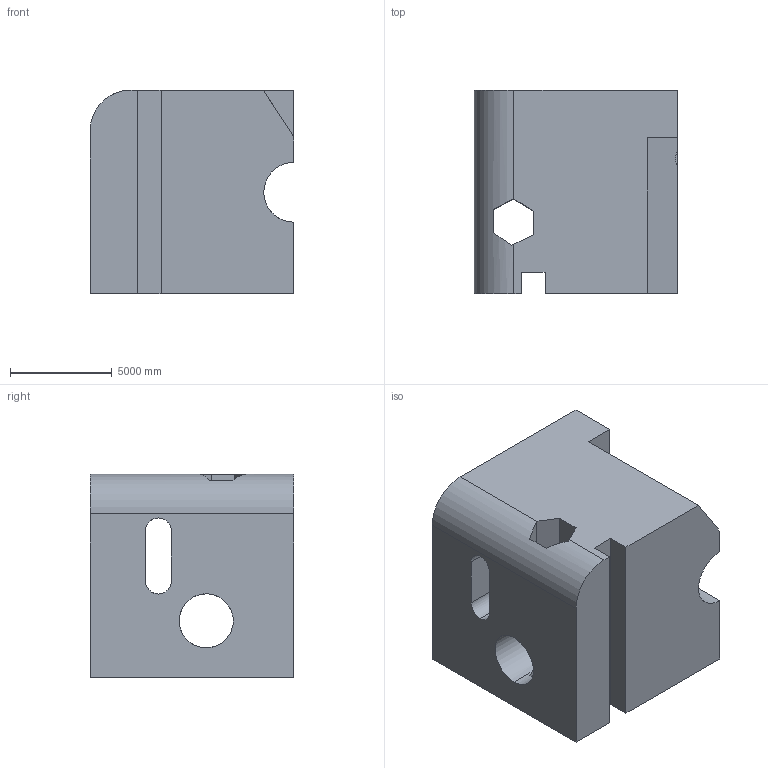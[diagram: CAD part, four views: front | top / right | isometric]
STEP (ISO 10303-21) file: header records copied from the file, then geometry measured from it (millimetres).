
FILE_DESCRIPTION (( 'STEP AP203' ), '1' );
FILE_NAME ('621.STEP', '2022-07-29T12:08:32', ( 'user' ), ( '' ), 'SwSTEP 2.0', 'SolidWorks 2021', '' );
FILE_SCHEMA (( 'CONFIG_CONTROL_DESIGN' ));
Length unit declared in the file: centimetre
Products named in the file (1): 621
Bounding box: 10000 x 10000 x 10000 mm (x, y, z)
Volume: 808962132972.5 mm3; surface area: 793961509.2 mm2
Topology: 1 solids, 1 shells, 33 faces, 108 edges, 72 vertices
Faces by surface type: plane 25, cylinder 8
Entity records: 1553 total; most frequent: CARTESIAN_POINT 544, ORIENTED_EDGE 216, DIRECTION 176, EDGE_CURVE 108, VERTEX_POINT 72, VECTOR 72, LINE 72, AXIS2_PLACEMENT_3D 52
